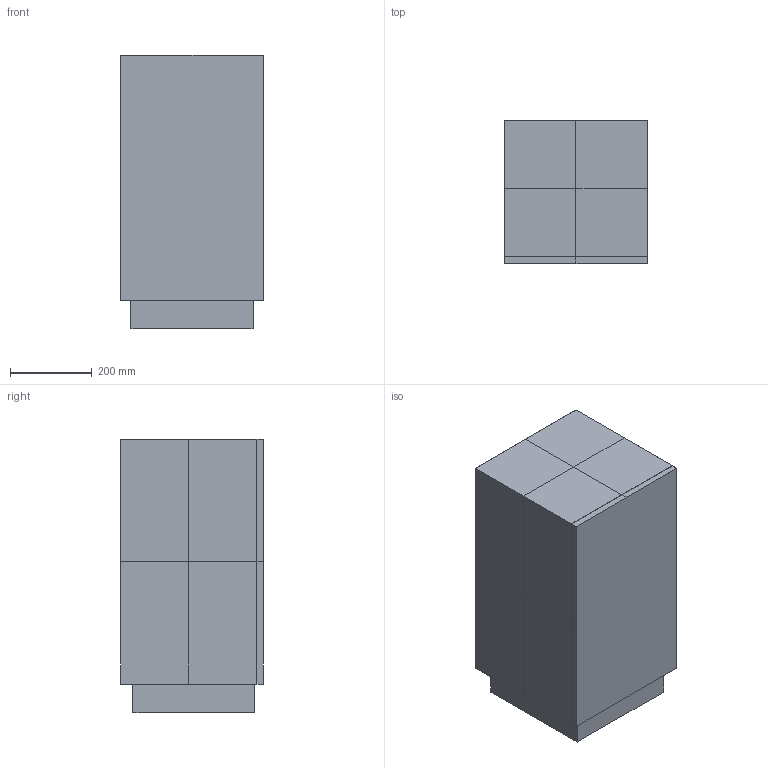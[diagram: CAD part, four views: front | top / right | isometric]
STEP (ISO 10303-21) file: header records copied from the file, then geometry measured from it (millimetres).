
FILE_DESCRIPTION(/* description */ (''),/* implementation_level */ '2;1');
FILE_NAME(/* name */ 'Burl Side Table_3D',/* time_stamp */ '2023-07-20T13:13:07+02:00',/* author */ (''),/* organization */ (''),/* preprocessor_version */ 'ST-DEVELOPER v16.5',/* originating_system */ 'Rhino 7.31',/* authorisation */ '');
FILE_SCHEMA (('CONFIG_CONTROL_DESIGN'));
Length unit declared in the file: millimetre
Products named in the file (1): Document
Bounding box: 350.18 x 350.49 x 670 mm (x, y, z)
Volume: 2892934.9 mm3; surface area: 2729594.7 mm2
Topology: 8 solids, 22 shells, 135 faces, 322 edges, 215 vertices
Faces by surface type: plane 111, cylinder 24
Entity records: 3534 total; most frequent: CARTESIAN_POINT 1286, ORIENTED_EDGE 564, EDGE_CURVE 322, VERTEX_POINT 215, B_SPLINE_CURVE_WITH_KNOTS 198, DIRECTION 141, AXIS2_PLACEMENT_3D 138, ADVANCED_FACE 135
